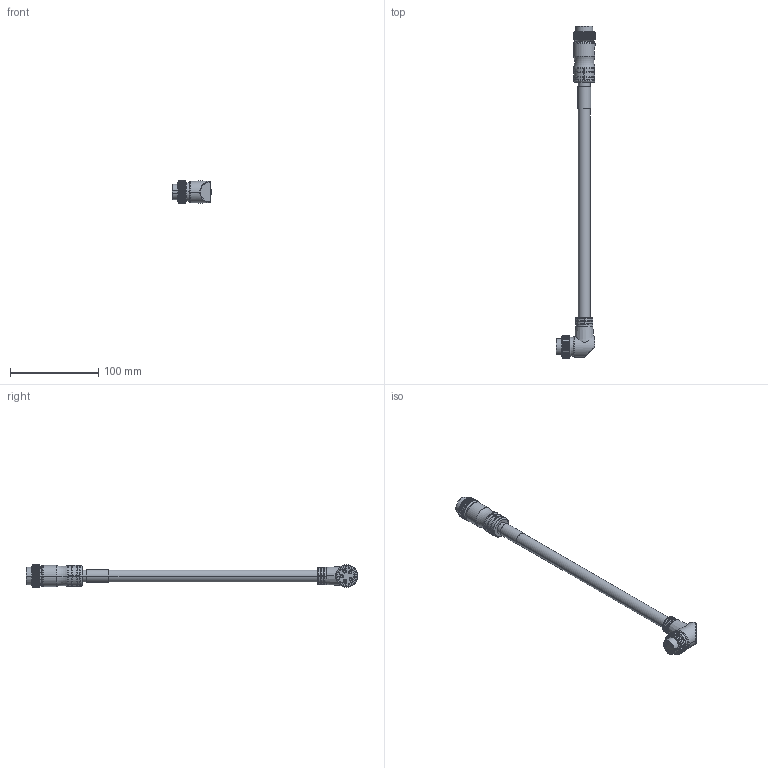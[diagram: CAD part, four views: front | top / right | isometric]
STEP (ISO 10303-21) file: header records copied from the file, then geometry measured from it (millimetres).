
FILE_DESCRIPTION((''),'2;1');
FILE_NAME('889N-R5AFNU-6F','2014-03-05T',('20019289'),('Rockwell Automation'),'PRO/ENGINEER BY PARAMETRIC TECHNOLOGY CORPORATION, 2010140','PRO/ENGINEER BY PARAMETRIC TECHNOLOGY CORPORATION, 2010140','');
FILE_SCHEMA(('CONFIG_CONTROL_DESIGN'));
Length unit declared in the file: inch
Products named in the file (1): 889N-R5AFNU-6F
Bounding box: 44.7 x 376.05 x 25.4 mm (x, y, z)
Volume: 86214.2 mm3; surface area: 27593.9 mm2
Topology: 1 solids, 1 shells, 942 faces, 2233 edges, 1323 vertices
Faces by surface type: plane 461, cylinder 348, cone 94, torus 35, bspline 2, sphere 2
Entity records: 28049 total; most frequent: CARTESIAN_POINT 6138, DIRECTION 4830, ORIENTED_EDGE 4462, EDGE_CURVE 2231, AXIS2_PLACEMENT_3D 1874, VERTEX_POINT 1323, VECTOR 1082, LINE 1082
